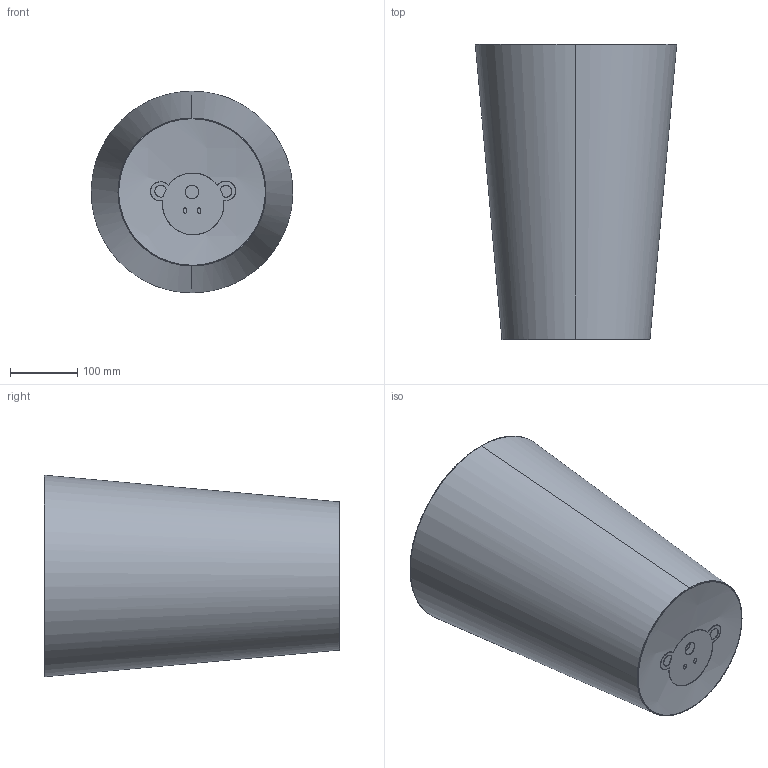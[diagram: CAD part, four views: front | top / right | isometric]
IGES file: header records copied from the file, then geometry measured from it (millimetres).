
Start section: SolidWorks IGES file using analytic representation for surfaces
Global section: file name: H:\3D COLLECTION\Seaters\Container Stool\Container Stool.IGS; native system: SolidWorks 2005 by SolidWorks Corporation; preprocessor: SolidWorks 2005 by SolidWorks Corporation; author: mcguigan; date: 080320.150030; units: millimetre
Bounding box: 299.71 x 439.87 x 299.78 mm (x, y, z)
Surface area: 934460.6 mm2 (no closed solid volume)
Topology: 0 solids, 0 shells, 34 faces, 1151 edges, 1232 vertices
Faces by surface type: bspline 26, revolution 8
